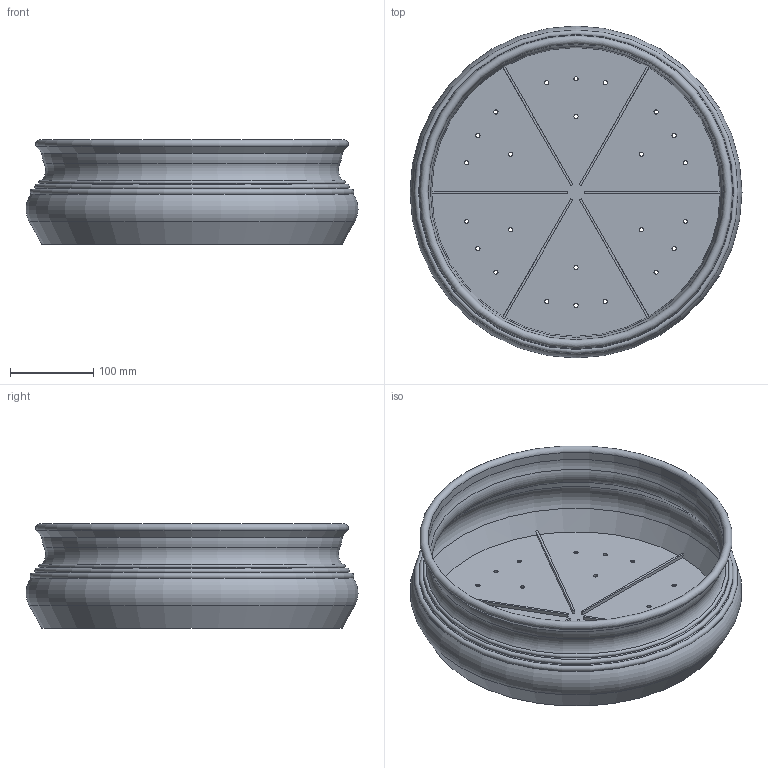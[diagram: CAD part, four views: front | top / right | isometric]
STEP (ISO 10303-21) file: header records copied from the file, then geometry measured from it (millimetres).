
FILE_DESCRIPTION(/* description */ (''),/* implementation_level */ '2;1');
FILE_NAME(/* name */ 'LR2406-S25-H125-D400_step.step',/* time_stamp */ '2024-02-01T10:59:56+01:00',/* author */ (''),/* organization */ (''),/* preprocessor_version */ 'ST-DEVELOPER v20',/* originating_system */ 'Autodesk Translation Framework v12.20.1.177',/* authorisation */ '');
FILE_SCHEMA (('AUTOMOTIVE_DESIGN { 1 0 10303 214 3 1 1 }'));
Length unit declared in the file: millimetre
Products named in the file (1): LR2406-S25-H125-D400
Bounding box: 397.99 x 397.99 x 125 mm (x, y, z)
Volume: 737721.6 mm3; surface area: 545709.1 mm2
Topology: 1 solids, 1 shells, 68 faces, 181 edges, 115 vertices
Faces by surface type: cylinder 31, plane 20, torus 10, cone 7
Full cylindrical faces by diameter (mm): 5 x24, 355 x1
Entity records: 2286 total; most frequent: DIRECTION 420, CARTESIAN_POINT 365, ORIENTED_EDGE 362, EDGE_CURVE 181, AXIS2_PLACEMENT_3D 170, EDGE_LOOP 116, VERTEX_POINT 115, CIRCLE 101
